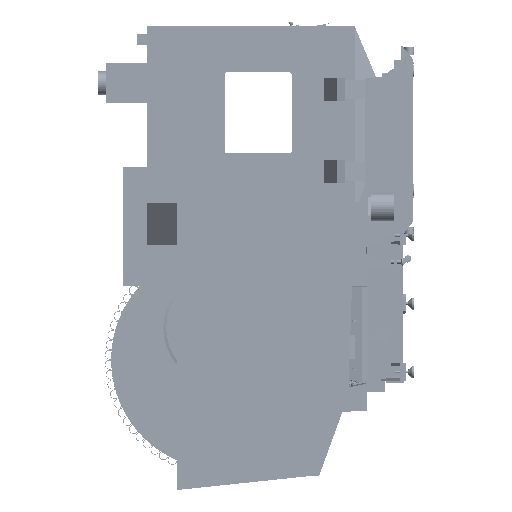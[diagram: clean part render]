
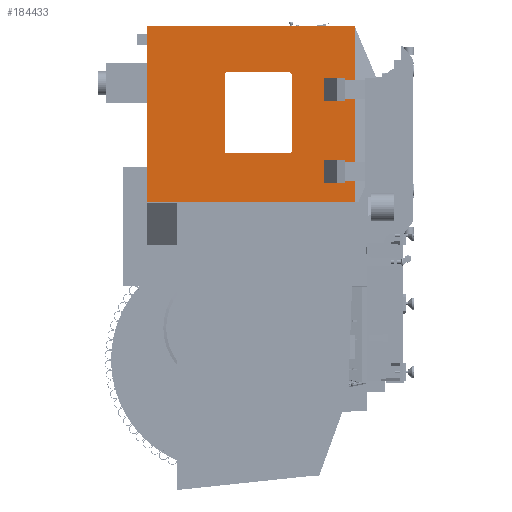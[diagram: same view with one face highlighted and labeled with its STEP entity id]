
A CAD part, left-side view. The second image highlights one B-rep face of the part: STEP entity #184433.
In plain terms, the highlighted planar face has unit normal (-1, 0, 0).
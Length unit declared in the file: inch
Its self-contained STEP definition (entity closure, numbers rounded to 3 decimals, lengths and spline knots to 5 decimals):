
#2759 = FACE_BOUND ( 'NONE', #215140, .T. ) ;
#4062 = CARTESIAN_POINT ( 'NONE',  ( -75., 110.63, -29.75 ) ) ;
#5916 = DIRECTION ( 'NONE',  ( -1., 0., 0. ) ) ;
#6321 = AXIS2_PLACEMENT_3D ( 'NONE', #144103, #75337, #21070 ) ;
#7798 = VECTOR ( 'NONE', #42039, 39.37008 ) ;
#9366 = CARTESIAN_POINT ( 'NONE',  ( -75., 50.57, -8.595 ) ) ;
#11229 = CARTESIAN_POINT ( 'NONE',  ( -75., 51.57, -8.595 ) ) ;
#13105 = CARTESIAN_POINT ( 'NONE',  ( -75., 110.63, 43.17151 ) ) ;
#13360 = CARTESIAN_POINT ( 'NONE',  ( -75., 110.57, -29.75 ) ) ;
#14094 = ORIENTED_EDGE ( 'NONE', *, *, #158644, .F. ) ;
#14129 = CARTESIAN_POINT ( 'NONE',  ( -75., 110.63, -28.45 ) ) ;
#21070 = DIRECTION ( 'NONE',  ( 0., 0., 1. ) ) ;
#23603 = CARTESIAN_POINT ( 'NONE',  ( -75., 51.57, 24.095 ) ) ;
#27951 = VERTEX_POINT ( 'NONE', #151084 ) ;
#28296 = LINE ( 'NONE', #23603, #56325 ) ;
#31265 = CARTESIAN_POINT ( 'NONE',  ( -75., 24.3658, 43.17151 ) ) ;
#34581 = DIRECTION ( 'NONE',  ( 0., 0., 1. ) ) ;
#36750 = ORIENTED_EDGE ( 'NONE', *, *, #286390, .F. ) ;
#37688 = EDGE_CURVE ( 'NONE', #72883, #224704, #42173, .T. ) ;
#38760 = CARTESIAN_POINT ( 'NONE',  ( -75., 78.42, -8.595 ) ) ;
#40461 = ORIENTED_EDGE ( 'NONE', *, *, #224305, .F. ) ;
#42039 = DIRECTION ( 'NONE',  ( 0., 0., 1. ) ) ;
#42173 = CIRCLE ( 'NONE', #6321, 1. ) ;
#56325 = VECTOR ( 'NONE', #316122, 39.37008 ) ;
#56385 = AXIS2_PLACEMENT_3D ( 'NONE', #148254, #5916, #245751 ) ;
#56878 = EDGE_LOOP ( 'NONE', ( #158245, #102143, #312903, #64182, #199672, #315841, #173055, #311219, #36750 ) ) ;
#64182 = ORIENTED_EDGE ( 'NONE', *, *, #275426, .T. ) ;
#65036 = CARTESIAN_POINT ( 'NONE',  ( -75., 109.61, -17.75 ) ) ;
#68987 = CIRCLE ( 'NONE', #79228, 1. ) ;
#70510 = CARTESIAN_POINT ( 'NONE',  ( -75., 77.42, -9.595 ) ) ;
#70982 = EDGE_CURVE ( 'NONE', #159453, #217136, #228347, .T. ) ;
#71449 = VERTEX_POINT ( 'NONE', #183209 ) ;
#72883 = VERTEX_POINT ( 'NONE', #38760 ) ;
#75337 = DIRECTION ( 'NONE',  ( -1., 0., 0. ) ) ;
#79228 = AXIS2_PLACEMENT_3D ( 'NONE', #82002, #179529, #157102 ) ;
#82002 = CARTESIAN_POINT ( 'NONE',  ( -75., 77.42, 23.095 ) ) ;
#82907 = DIRECTION ( 'NONE',  ( 0., -1., 0. ) ) ;
#84059 = EDGE_CURVE ( 'NONE', #245046, #171383, #284207, .T. ) ;
#84519 = DIRECTION ( 'NONE',  ( 0., 1., 0. ) ) ;
#85537 = VERTEX_POINT ( 'NONE', #288590 ) ;
#93337 = LINE ( 'NONE', #147582, #298296 ) ;
#99572 = VECTOR ( 'NONE', #251901, 39.37008 ) ;
#102143 = ORIENTED_EDGE ( 'NONE', *, *, #301509, .T. ) ;
#106456 = EDGE_CURVE ( 'NONE', #137931, #71449, #68987, .T. ) ;
#110649 = ORIENTED_EDGE ( 'NONE', *, *, #138343, .F. ) ;
#110806 = CARTESIAN_POINT ( 'NONE',  ( -75., 110.57, -17.75 ) ) ;
#114509 = LINE ( 'NONE', #65036, #160355 ) ;
#116952 = ORIENTED_EDGE ( 'NONE', *, *, #37688, .F. ) ;
#119086 = EDGE_CURVE ( 'NONE', #251922, #179371, #288139, .T. ) ;
#120015 = EDGE_CURVE ( 'NONE', #178369, #171540, #253177, .T. ) ;
#120750 = AXIS2_PLACEMENT_3D ( 'NONE', #11229, #159894, #155147 ) ;
#122739 = CIRCLE ( 'NONE', #56385, 1. ) ;
#127331 = CARTESIAN_POINT ( 'NONE',  ( -75., 110.63, 43.25 ) ) ;
#128460 = VECTOR ( 'NONE', #82907, 39.37008 ) ;
#128836 = LINE ( 'NONE', #275901, #99572 ) ;
#128912 = LINE ( 'NONE', #127331, #222794 ) ;
#130512 = CARTESIAN_POINT ( 'NONE',  ( -75., 24.3658, 178.43 ) ) ;
#131115 = EDGE_CURVE ( 'NONE', #85537, #245657, #93337, .T. ) ;
#134107 = VECTOR ( 'NONE', #84519, 39.37008 ) ;
#137931 = VERTEX_POINT ( 'NONE', #137978 ) ;
#137978 = CARTESIAN_POINT ( 'NONE',  ( -75., 77.42, 24.095 ) ) ;
#138343 = EDGE_CURVE ( 'NONE', #202034, #137931, #28296, .T. ) ;
#144103 = CARTESIAN_POINT ( 'NONE',  ( -75., 77.42, -8.595 ) ) ;
#147582 = CARTESIAN_POINT ( 'NONE',  ( -75., 110.63, -28.45 ) ) ;
#148254 = CARTESIAN_POINT ( 'NONE',  ( -75., 51.57, 23.095 ) ) ;
#148886 = CARTESIAN_POINT ( 'NONE',  ( -75., 51.57, 24.095 ) ) ;
#149279 = EDGE_CURVE ( 'NONE', #224704, #27951, #238348, .T. ) ;
#151084 = CARTESIAN_POINT ( 'NONE',  ( -75., 51.57, -9.595 ) ) ;
#155147 = DIRECTION ( 'NONE',  ( 0., 0., 1. ) ) ;
#155922 = ORIENTED_EDGE ( 'NONE', *, *, #106456, .F. ) ;
#157102 = DIRECTION ( 'NONE',  ( 0., 0., 1. ) ) ;
#157702 = DIRECTION ( 'NONE',  ( 0., 0., -1. ) ) ;
#158245 = ORIENTED_EDGE ( 'NONE', *, *, #120015, .T. ) ;
#158644 = EDGE_CURVE ( 'NONE', #71449, #72883, #271796, .T. ) ;
#159453 = VERTEX_POINT ( 'NONE', #311996 ) ;
#159602 = CARTESIAN_POINT ( 'NONE',  ( -75., 24.3658, 43.17151 ) ) ;
#159894 = DIRECTION ( 'NONE',  ( -1., 0., 0. ) ) ;
#160355 = VECTOR ( 'NONE', #212024, 39.37008 ) ;
#161229 = LINE ( 'NONE', #14129, #134107 ) ;
#163306 = DIRECTION ( 'NONE',  ( 0., -1., 0. ) ) ;
#168625 = VECTOR ( 'NONE', #297294, 39.37008 ) ;
#169500 = VECTOR ( 'NONE', #163306, 39.37008 ) ;
#171383 = VERTEX_POINT ( 'NONE', #31265 ) ;
#171540 = VERTEX_POINT ( 'NONE', #237314 ) ;
#172279 = DIRECTION ( 'NONE',  ( -1., 0., 0. ) ) ;
#173055 = ORIENTED_EDGE ( 'NONE', *, *, #84059, .F. ) ;
#173785 = AXIS2_PLACEMENT_3D ( 'NONE', #199375, #172279, #316166 ) ;
#173842 = FACE_OUTER_BOUND ( 'NONE', #56878, .T. ) ;
#175426 = PLANE ( 'NONE',  #173785 ) ;
#178369 = VERTEX_POINT ( 'NONE', #110806 ) ;
#179371 = VERTEX_POINT ( 'NONE', #266564 ) ;
#179529 = DIRECTION ( 'NONE',  ( -1., 0., 0. ) ) ;
#183209 = CARTESIAN_POINT ( 'NONE',  ( -75., 78.42, 23.095 ) ) ;
#184433 = ADVANCED_FACE ( 'NONE', ( #173842, #2759 ), #175426, .T. ) ;
#184438 = DIRECTION ( 'NONE',  ( 0., 0., -1. ) ) ;
#185460 = CARTESIAN_POINT ( 'NONE',  ( -75., 50.57, 23.095 ) ) ;
#190261 = CARTESIAN_POINT ( 'NONE',  ( -75., 110.63, -17.75 ) ) ;
#199375 = CARTESIAN_POINT ( 'NONE',  ( -75., 36.57, 65.60919 ) ) ;
#199672 = ORIENTED_EDGE ( 'NONE', *, *, #119086, .T. ) ;
#202034 = VERTEX_POINT ( 'NONE', #148886 ) ;
#209739 = VERTEX_POINT ( 'NONE', #190261 ) ;
#209886 = CARTESIAN_POINT ( 'NONE',  ( -75., 24.3658, -29.75 ) ) ;
#212024 = DIRECTION ( 'NONE',  ( 0., 1., 0. ) ) ;
#215140 = EDGE_LOOP ( 'NONE', ( #250352, #116952, #14094, #155922, #110649, #255669, #226353, #40461 ) ) ;
#217136 = VERTEX_POINT ( 'NONE', #185460 ) ;
#217743 = CIRCLE ( 'NONE', #120750, 1. ) ;
#222794 = VECTOR ( 'NONE', #34581, 39.37008 ) ;
#224305 = EDGE_CURVE ( 'NONE', #27951, #159453, #217743, .T. ) ;
#224704 = VERTEX_POINT ( 'NONE', #306130 ) ;
#226353 = ORIENTED_EDGE ( 'NONE', *, *, #70982, .F. ) ;
#228347 = LINE ( 'NONE', #9366, #287795 ) ;
#237314 = CARTESIAN_POINT ( 'NONE',  ( -75., 110.57, -28.45 ) ) ;
#238348 = LINE ( 'NONE', #70510, #169500 ) ;
#245046 = VERTEX_POINT ( 'NONE', #13105 ) ;
#245657 = VERTEX_POINT ( 'NONE', #4062 ) ;
#245751 = DIRECTION ( 'NONE',  ( 0., 0., 1. ) ) ;
#249170 = DIRECTION ( 'NONE',  ( 0., 0., 1. ) ) ;
#250352 = ORIENTED_EDGE ( 'NONE', *, *, #149279, .F. ) ;
#251901 = DIRECTION ( 'NONE',  ( 0., -1., 0. ) ) ;
#251922 = VERTEX_POINT ( 'NONE', #301866 ) ;
#253177 = LINE ( 'NONE', #13360, #304806 ) ;
#255669 = ORIENTED_EDGE ( 'NONE', *, *, #262647, .F. ) ;
#262647 = EDGE_CURVE ( 'NONE', #217136, #202034, #122739, .T. ) ;
#266564 = CARTESIAN_POINT ( 'NONE',  ( -75., 24.3658, 20.95133 ) ) ;
#266682 = EDGE_CURVE ( 'NONE', #171383, #179371, #303132, .T. ) ;
#271796 = LINE ( 'NONE', #295726, #168625 ) ;
#275426 = EDGE_CURVE ( 'NONE', #245657, #251922, #128836, .T. ) ;
#275901 = CARTESIAN_POINT ( 'NONE',  ( -75., 110.57, -29.75 ) ) ;
#276696 = EDGE_CURVE ( 'NONE', #209739, #245046, #128912, .T. ) ;
#277644 = VECTOR ( 'NONE', #157702, 39.37008 ) ;
#284207 = LINE ( 'NONE', #159602, #128460 ) ;
#286390 = EDGE_CURVE ( 'NONE', #178369, #209739, #114509, .T. ) ;
#287795 = VECTOR ( 'NONE', #249170, 39.37008 ) ;
#288139 = LINE ( 'NONE', #209886, #7798 ) ;
#288328 = DIRECTION ( 'NONE',  ( 0., 0., -1. ) ) ;
#288590 = CARTESIAN_POINT ( 'NONE',  ( -75., 110.63, -28.45 ) ) ;
#295726 = CARTESIAN_POINT ( 'NONE',  ( -75., 78.42, 23.095 ) ) ;
#297294 = DIRECTION ( 'NONE',  ( 0., 0., -1. ) ) ;
#298296 = VECTOR ( 'NONE', #288328, 39.37008 ) ;
#301509 = EDGE_CURVE ( 'NONE', #171540, #85537, #161229, .T. ) ;
#301866 = CARTESIAN_POINT ( 'NONE',  ( -75., 24.3658, -29.75 ) ) ;
#303132 = LINE ( 'NONE', #130512, #277644 ) ;
#304806 = VECTOR ( 'NONE', #184438, 39.37008 ) ;
#306130 = CARTESIAN_POINT ( 'NONE',  ( -75., 77.42, -9.595 ) ) ;
#311219 = ORIENTED_EDGE ( 'NONE', *, *, #276696, .F. ) ;
#311996 = CARTESIAN_POINT ( 'NONE',  ( -75., 50.57, -8.595 ) ) ;
#312903 = ORIENTED_EDGE ( 'NONE', *, *, #131115, .T. ) ;
#315841 = ORIENTED_EDGE ( 'NONE', *, *, #266682, .F. ) ;
#316122 = DIRECTION ( 'NONE',  ( 0., 1., 0. ) ) ;
#316166 = DIRECTION ( 'NONE',  ( 0., 0., 1. ) ) ;
